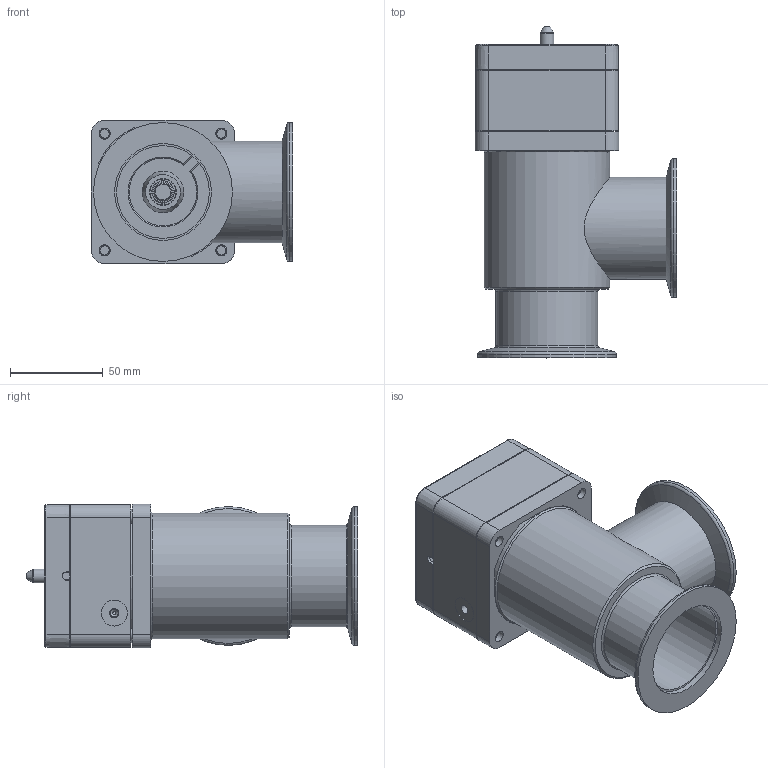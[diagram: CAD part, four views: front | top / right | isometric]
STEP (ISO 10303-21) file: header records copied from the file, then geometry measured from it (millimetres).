
FILE_DESCRIPTION(/* description */ (''),/* implementation_level */ '2;1');
FILE_NAME(/* name */ '1182065324_203',/* time_stamp */ '2009-04-28T10:37:15+02:00',/* author */ (''),/* organization */ (''),/* preprocessor_version */ 'ST-DEVELOPER v11',/* originating_system */ 'UGS - NX 5.0',/* authorisation */ '');
FILE_SCHEMA (('CONFIG_CONTROL_DESIGN'));
Length unit declared in the file: millimetre
Products named in the file (11): 248182.3; 252497.8; 248180.9; 245150; 236204_1.1; 245123.5; 245085.3; N-6005-480.1; 248179.14; 248485.2; 257581.7
Assembly tree (14 placements, depth 3):
  257581.7
    248485.2
      236204_1.1  x2
      245150
    N-6005-480.1  x4
    245085.3
    245123.5
    248179.14
      248180.9
      252497.8
      248182.3
Bounding box: 108.7 x 179 x 77.4 mm (x, y, z)
Volume: 246345.3 mm3; surface area: 155313.9 mm2
Topology: 22 solids, 22 shells, 590 faces, 1428 edges, 914 vertices
Faces by surface type: plane 336, cylinder 111, cone 98, bspline 27, torus 18
Full cylindrical faces by diameter (mm): 1.8 x1, 2.5 x3, 3 x5, 4.134 x1, 4.4 x1, 4.7 x2, 4.96 x4, 5 x5, 5.6 x2, 6 x12, 6.4 x4, 7.4 x1, 8.175 x1, 9.1 x1, 10 x5, 11.975 x3, 12.015 x1, 12.25 x2, 14 x1, 14.009 x1, 16.6 x1, 22.4 x1, 50 x3, 52.2 x2, 55 x2, 63 x1, 63.05 x1, 67.9 x1, 69.45 x1, 70.45 x1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
Entity records: 17078 total; most frequent: CARTESIAN_POINT 4167, DIRECTION 2325, ORIENTED_EDGE 2272, EDGE_CURVE 1136, AXIS2_PLACEMENT_3D 837, VERTEX_POINT 798, EDGE_LOOP 708, LINE 651
